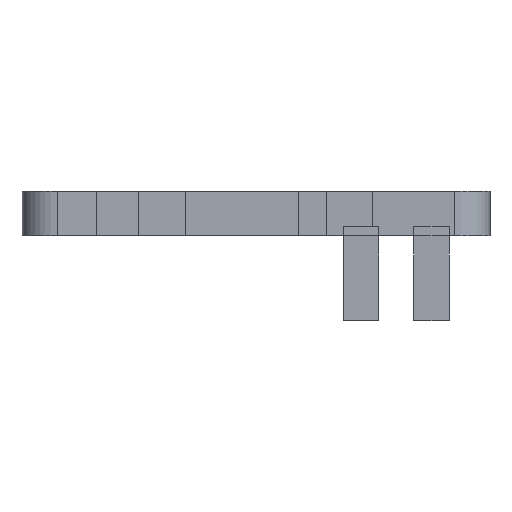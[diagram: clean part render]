
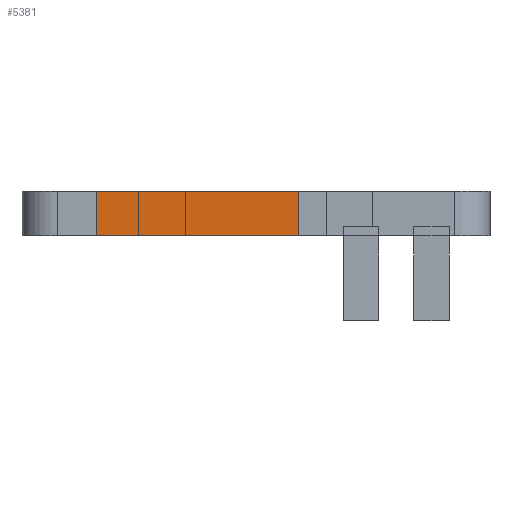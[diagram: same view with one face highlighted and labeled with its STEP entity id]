
A CAD part, left-side view. The second image highlights one B-rep face of the part: STEP entity #5381.
In plain terms, the highlighted planar face has unit normal (-1, 0, 0).
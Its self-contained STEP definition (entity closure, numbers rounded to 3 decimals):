
#72 = PLANE('',#73);
#73 = AXIS2_PLACEMENT_3D('',#74,#75,#76);
#74 = CARTESIAN_POINT('',(-32.,-15.,0.7));
#75 = DIRECTION('',(0.,0.,1.));
#76 = DIRECTION('',(1.,0.,-0.));
#314 = PLANE('',#315);
#315 = AXIS2_PLACEMENT_3D('',#316,#317,#318);
#316 = CARTESIAN_POINT('',(-39.15,1.35,-4.65));
#317 = DIRECTION('',(0.,1.,0.));
#318 = DIRECTION('',(0.,-0.,1.));
#340 = PLANE('',#341);
#341 = AXIS2_PLACEMENT_3D('',#342,#343,#344);
#342 = CARTESIAN_POINT('',(-32.,-15.,4.5));
#343 = DIRECTION('',(0.,0.,1.));
#344 = DIRECTION('',(1.,0.,-0.));
#1254 = VERTEX_POINT('',#1255);
#1255 = CARTESIAN_POINT('',(-31.95,18.65,0.7));
#1269 = PLANE('',#1270);
#1270 = AXIS2_PLACEMENT_3D('',#1271,#1272,#1273);
#1271 = CARTESIAN_POINT('',(-39.15,18.65,-4.65));
#1272 = DIRECTION('',(0.,1.,0.));
#1273 = DIRECTION('',(0.,-0.,1.));
#1281 = EDGE_CURVE('',#1282,#1254,#1284,.T.);
#1282 = VERTEX_POINT('',#1283);
#1283 = CARTESIAN_POINT('',(-31.95,1.35,0.7));
#1284 = SURFACE_CURVE('',#1285,(#1289,#1296),.PCURVE_S1.);
#1285 = LINE('',#1286,#1287);
#1286 = CARTESIAN_POINT('',(-31.95,-6.825,0.7));
#1287 = VECTOR('',#1288,1.);
#1288 = DIRECTION('',(0.,1.,0.));
#1289 = PCURVE('',#72,#1290);
#1290 = DEFINITIONAL_REPRESENTATION('',(#1291),#1295);
#1291 = LINE('',#1292,#1293);
#1292 = CARTESIAN_POINT('',(0.05,8.175));
#1293 = VECTOR('',#1294,1.);
#1294 = DIRECTION('',(0.,1.));
#1295 = ( GEOMETRIC_REPRESENTATION_CONTEXT(2) 
PARAMETRIC_REPRESENTATION_CONTEXT() REPRESENTATION_CONTEXT('2D SPACE',''
  ) );
#1296 = PCURVE('',#1297,#1302);
#1297 = PLANE('',#1298);
#1298 = AXIS2_PLACEMENT_3D('',#1299,#1300,#1301);
#1299 = CARTESIAN_POINT('',(-31.95,1.35,-4.65));
#1300 = DIRECTION('',(1.,0.,0.));
#1301 = DIRECTION('',(0.,0.,1.));
#1302 = DEFINITIONAL_REPRESENTATION('',(#1303),#1307);
#1303 = LINE('',#1304,#1305);
#1304 = CARTESIAN_POINT('',(5.35,8.175));
#1305 = VECTOR('',#1306,1.);
#1306 = DIRECTION('',(0.,-1.));
#1307 = ( GEOMETRIC_REPRESENTATION_CONTEXT(2) 
PARAMETRIC_REPRESENTATION_CONTEXT() REPRESENTATION_CONTEXT('2D SPACE',''
  ) );
#2528 = EDGE_CURVE('',#1282,#2529,#2531,.T.);
#2529 = VERTEX_POINT('',#2530);
#2530 = CARTESIAN_POINT('',(-31.95,1.35,4.5));
#2531 = SURFACE_CURVE('',#2532,(#2536,#2543),.PCURVE_S1.);
#2532 = LINE('',#2533,#2534);
#2533 = CARTESIAN_POINT('',(-31.95,1.35,-4.65));
#2534 = VECTOR('',#2535,1.);
#2535 = DIRECTION('',(0.,0.,1.));
#2536 = PCURVE('',#314,#2537);
#2537 = DEFINITIONAL_REPRESENTATION('',(#2538),#2542);
#2538 = LINE('',#2539,#2540);
#2539 = CARTESIAN_POINT('',(0.,7.2));
#2540 = VECTOR('',#2541,1.);
#2541 = DIRECTION('',(1.,0.));
#2542 = ( GEOMETRIC_REPRESENTATION_CONTEXT(2) 
PARAMETRIC_REPRESENTATION_CONTEXT() REPRESENTATION_CONTEXT('2D SPACE',''
  ) );
#2543 = PCURVE('',#1297,#2544);
#2544 = DEFINITIONAL_REPRESENTATION('',(#2545),#2549);
#2545 = LINE('',#2546,#2547);
#2546 = CARTESIAN_POINT('',(0.,0.));
#2547 = VECTOR('',#2548,1.);
#2548 = DIRECTION('',(1.,0.));
#2549 = ( GEOMETRIC_REPRESENTATION_CONTEXT(2) 
PARAMETRIC_REPRESENTATION_CONTEXT() REPRESENTATION_CONTEXT('2D SPACE',''
  ) );
#2873 = VERTEX_POINT('',#2874);
#2874 = CARTESIAN_POINT('',(-31.95,18.65,4.5));
#2895 = EDGE_CURVE('',#2529,#2873,#2896,.T.);
#2896 = SURFACE_CURVE('',#2897,(#2901,#2908),.PCURVE_S1.);
#2897 = LINE('',#2898,#2899);
#2898 = CARTESIAN_POINT('',(-31.95,-6.825,4.5));
#2899 = VECTOR('',#2900,1.);
#2900 = DIRECTION('',(0.,1.,0.));
#2901 = PCURVE('',#340,#2902);
#2902 = DEFINITIONAL_REPRESENTATION('',(#2903),#2907);
#2903 = LINE('',#2904,#2905);
#2904 = CARTESIAN_POINT('',(0.05,8.175));
#2905 = VECTOR('',#2906,1.);
#2906 = DIRECTION('',(0.,1.));
#2907 = ( GEOMETRIC_REPRESENTATION_CONTEXT(2) 
PARAMETRIC_REPRESENTATION_CONTEXT() REPRESENTATION_CONTEXT('2D SPACE',''
  ) );
#2908 = PCURVE('',#1297,#2909);
#2909 = DEFINITIONAL_REPRESENTATION('',(#2910),#2914);
#2910 = LINE('',#2911,#2912);
#2911 = CARTESIAN_POINT('',(9.15,8.175));
#2912 = VECTOR('',#2913,1.);
#2913 = DIRECTION('',(0.,-1.));
#2914 = ( GEOMETRIC_REPRESENTATION_CONTEXT(2) 
PARAMETRIC_REPRESENTATION_CONTEXT() REPRESENTATION_CONTEXT('2D SPACE',''
  ) );
#5358 = EDGE_CURVE('',#1254,#2873,#5359,.T.);
#5359 = SURFACE_CURVE('',#5360,(#5364,#5371),.PCURVE_S1.);
#5360 = LINE('',#5361,#5362);
#5361 = CARTESIAN_POINT('',(-31.95,18.65,-4.65));
#5362 = VECTOR('',#5363,1.);
#5363 = DIRECTION('',(0.,0.,1.));
#5364 = PCURVE('',#1269,#5365);
#5365 = DEFINITIONAL_REPRESENTATION('',(#5366),#5370);
#5366 = LINE('',#5367,#5368);
#5367 = CARTESIAN_POINT('',(0.,7.2));
#5368 = VECTOR('',#5369,1.);
#5369 = DIRECTION('',(1.,0.));
#5370 = ( GEOMETRIC_REPRESENTATION_CONTEXT(2) 
PARAMETRIC_REPRESENTATION_CONTEXT() REPRESENTATION_CONTEXT('2D SPACE',''
  ) );
#5371 = PCURVE('',#1297,#5372);
#5372 = DEFINITIONAL_REPRESENTATION('',(#5373),#5377);
#5373 = LINE('',#5374,#5375);
#5374 = CARTESIAN_POINT('',(0.,-17.3));
#5375 = VECTOR('',#5376,1.);
#5376 = DIRECTION('',(1.,0.));
#5377 = ( GEOMETRIC_REPRESENTATION_CONTEXT(2) 
PARAMETRIC_REPRESENTATION_CONTEXT() REPRESENTATION_CONTEXT('2D SPACE',''
  ) );
#5381 = ADVANCED_FACE('',(#5382),#1297,.F.);
#5382 = FACE_BOUND('',#5383,.F.);
#5383 = EDGE_LOOP('',(#5384,#5385,#5386,#5387));
#5384 = ORIENTED_EDGE('',*,*,#2528,.F.);
#5385 = ORIENTED_EDGE('',*,*,#1281,.T.);
#5386 = ORIENTED_EDGE('',*,*,#5358,.T.);
#5387 = ORIENTED_EDGE('',*,*,#2895,.F.);
